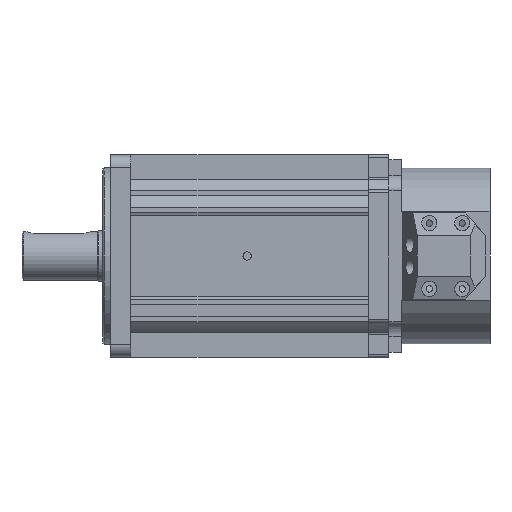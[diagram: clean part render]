
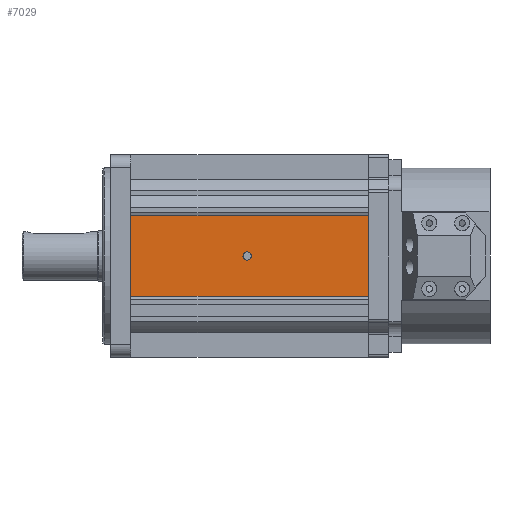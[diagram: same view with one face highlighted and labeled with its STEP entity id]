
A CAD part, front view. The second image highlights one B-rep face of the part: STEP entity #7029.
In plain terms, the highlighted planar face has unit normal (0, -1, 0).
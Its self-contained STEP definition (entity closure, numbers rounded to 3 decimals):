
#89 = VECTOR ( 'NONE', #1502, 1000. ) ;
#390 = CARTESIAN_POINT ( 'NONE',  ( 137., -40., 16. ) ) ;
#468 = VERTEX_POINT ( 'NONE', #2341 ) ;
#568 = VERTEX_POINT ( 'NONE', #1784 ) ;
#633 = ORIENTED_EDGE ( 'NONE', *, *, #3440, .F. ) ;
#920 = ORIENTED_EDGE ( 'NONE', *, *, #3538, .T. ) ;
#1019 = AXIS2_PLACEMENT_3D ( 'NONE', #6613, #6627, #6643 ) ;
#1219 = CARTESIAN_POINT ( 'NONE',  ( 137., -40., -16. ) ) ;
#1502 = DIRECTION ( 'NONE',  ( 0., 0., 1. ) ) ;
#1714 = AXIS2_PLACEMENT_3D ( 'NONE', #8443, #8477, #8487 ) ;
#1784 = CARTESIAN_POINT ( 'NONE',  ( 43., -40., 16. ) ) ;
#1899 = FACE_BOUND ( 'NONE', #3913, .T. ) ;
#2005 = DIRECTION ( 'NONE',  ( -1., 0., 0. ) ) ;
#2204 = CARTESIAN_POINT ( 'NONE',  ( 89., -40., 1.65 ) ) ;
#2251 = ORIENTED_EDGE ( 'NONE', *, *, #2979, .T. ) ;
#2341 = CARTESIAN_POINT ( 'NONE',  ( 43., -40., -16. ) ) ;
#2431 = VERTEX_POINT ( 'NONE', #6533 ) ;
#2439 = EDGE_CURVE ( 'NONE', #5188, #5188, #7215, .T. ) ;
#2550 = CARTESIAN_POINT ( 'NONE',  ( 137., -40., 26. ) ) ;
#2556 = LINE ( 'NONE', #3059, #3806 ) ;
#2674 = LINE ( 'NONE', #4699, #3143 ) ;
#2776 = ORIENTED_EDGE ( 'NONE', *, *, #2439, .F. ) ;
#2979 = EDGE_CURVE ( 'NONE', #5354, #568, #2556, .T. ) ;
#3059 = CARTESIAN_POINT ( 'NONE',  ( 137., -40., 16. ) ) ;
#3096 = DIRECTION ( 'NONE',  ( -1., 0., 0. ) ) ;
#3143 = VECTOR ( 'NONE', #3661, 1000. ) ;
#3440 = EDGE_CURVE ( 'NONE', #2431, #468, #7025, .T. ) ;
#3538 = EDGE_CURVE ( 'NONE', #2431, #5354, #6053, .T. ) ;
#3661 = DIRECTION ( 'NONE',  ( 0., 0., 1. ) ) ;
#3806 = VECTOR ( 'NONE', #3096, 1000. ) ;
#3913 = EDGE_LOOP ( 'NONE', ( #2776 ) ) ;
#4084 = EDGE_CURVE ( 'NONE', #468, #568, #2674, .T. ) ;
#4699 = CARTESIAN_POINT ( 'NONE',  ( 43., -40., 26. ) ) ;
#5188 = VERTEX_POINT ( 'NONE', #2204 ) ;
#5354 = VERTEX_POINT ( 'NONE', #390 ) ;
#6053 = LINE ( 'NONE', #2550, #89 ) ;
#6104 = FACE_OUTER_BOUND ( 'NONE', #7397, .T. ) ;
#6533 = CARTESIAN_POINT ( 'NONE',  ( 137., -40., -16. ) ) ;
#6613 = CARTESIAN_POINT ( 'NONE',  ( 89., -40., 0. ) ) ;
#6627 = DIRECTION ( 'NONE',  ( 0., -1., 0. ) ) ;
#6643 = DIRECTION ( 'NONE',  ( 0., 0., 1. ) ) ;
#6717 = ORIENTED_EDGE ( 'NONE', *, *, #4084, .F. ) ;
#7025 = LINE ( 'NONE', #1219, #7044 ) ;
#7029 = ADVANCED_FACE ( 'NONE', ( #1899, #6104 ), #8474, .F. ) ;
#7044 = VECTOR ( 'NONE', #2005, 1000. ) ;
#7215 = CIRCLE ( 'NONE', #1019, 1.65 ) ;
#7397 = EDGE_LOOP ( 'NONE', ( #6717, #633, #920, #2251 ) ) ;
#8443 = CARTESIAN_POINT ( 'NONE',  ( 43., -40., 26. ) ) ;
#8474 = PLANE ( 'NONE',  #1714 ) ;
#8477 = DIRECTION ( 'NONE',  ( 0., 1., 0. ) ) ;
#8487 = DIRECTION ( 'NONE',  ( 0., 0., -1. ) ) ;
